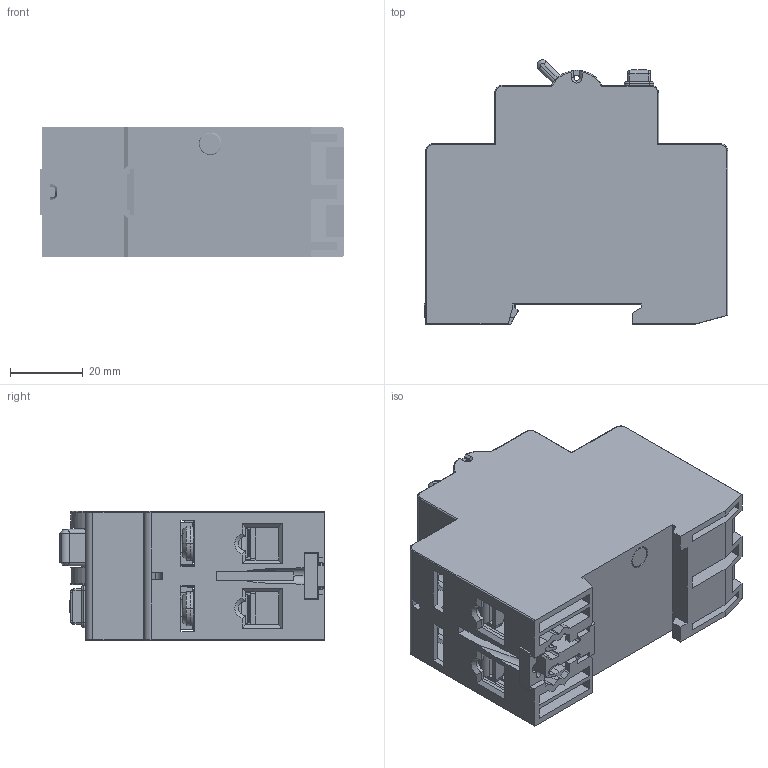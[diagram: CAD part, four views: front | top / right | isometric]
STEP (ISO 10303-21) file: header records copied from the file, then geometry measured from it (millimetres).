
FILE_DESCRIPTION (( 'STEP AP214' ), '1' );
FILE_NAME ('OptiDin DM63 2P 25-63À.STEP', '2022-11-18T10:41:21', ( '' ), ( '' ), 'SwSTEP 2.0', 'SolidWorks 2018', '' );
FILE_SCHEMA (( 'AUTOMOTIVE_DESIGN' ));
Products named in the file (1): OptiDin DM63 2P 25-63À
Bounding box: 83.4 x 72.53 x 35.5 mm (x, y, z)
Volume: 51776.5 mm3; surface area: 68998.2 mm2
Topology: 3 solids, 8 shells, 3661 faces, 10141 edges, 6500 vertices
Faces by surface type: plane 2299, cylinder 934, bspline 299, torus 75, cone 43, sphere 11
Entity records: 172209 total; most frequent: CARTESIAN_POINT 81118, ORIENTED_EDGE 20252, DIRECTION 17008, EDGE_CURVE 10126, LINE 6982, VECTOR 6982, VERTEX_POINT 6500, AXIS2_PLACEMENT_3D 5013
